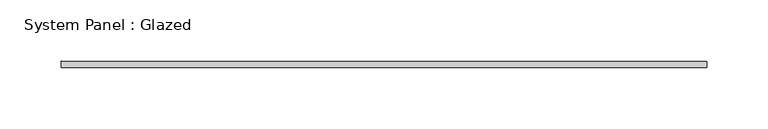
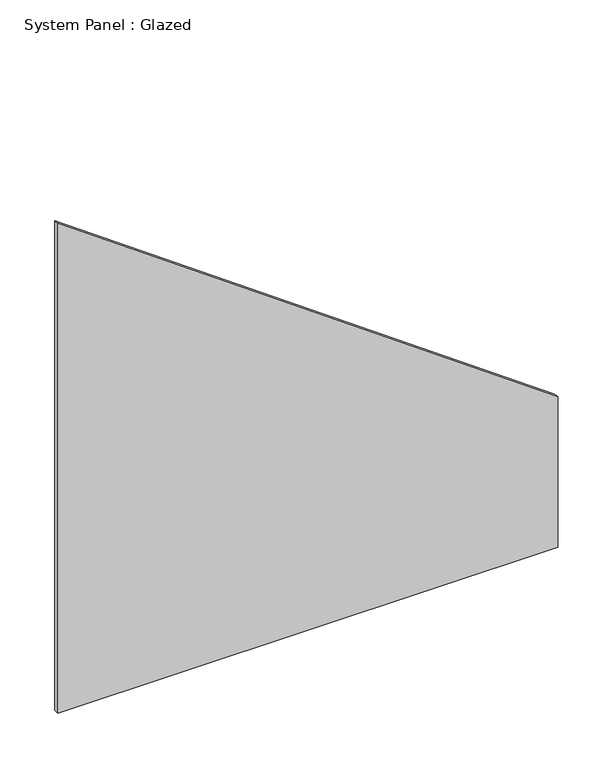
"""IFC4 building model written with IfcOpenShell, lengths in millimetres: plate geometry, System Panel : Glazed."""

from ifc_helpers import new_model, si_unit, frame, origin, place, context, project, spatial, polyline, outline, extrude, source, transform, mapped, element, save


def system_panel_glazed_28aef23e(model_context):
    return source(origin(), model_context, "Body", "SweptSolid", [
        extrude(outline(polyline([(0.0, -262.5), (0.0, 262.5), (167.289307, 262.5), (543.8414981, -262.5), (0.0, -262.5)])), frame((0.0, -2.5, 0.0), z_axis=(0.0, 1.0, 0.0), x_axis=(0.0, 0.0, 1.0)), (0.0, 0.0, 1.0), 5.0),
    ])


if __name__ == "__main__":
    model = new_model("IFC4")
    model_context = context("Model", 3, world=origin())
    ifc_project = project(units=[si_unit("LENGTHUNIT", "METRE", prefix="MILLI")], contexts=[model_context])
    site = spatial("IfcSite", under=ifc_project)
    building = spatial("IfcBuilding", under=site)
    placement = place(None, origin())
    system_panel_glazed_shape = system_panel_glazed_28aef23e(model_context)
    element("IfcPlate", 1, ObjectType="System Panel : Glazed", at=placement, inside=building, context=model_context, shape_type="MappedRepresentation", body=[
        mapped(system_panel_glazed_shape, transform((0.0, 0.0, 0.0), x_axis=(1.0, 0.0, 0.0), y_axis=(0.0, 1.0, 0.0), z_axis=(0.0, 0.0, 1.0))),
    ])
    save(model, "model.ifc")
